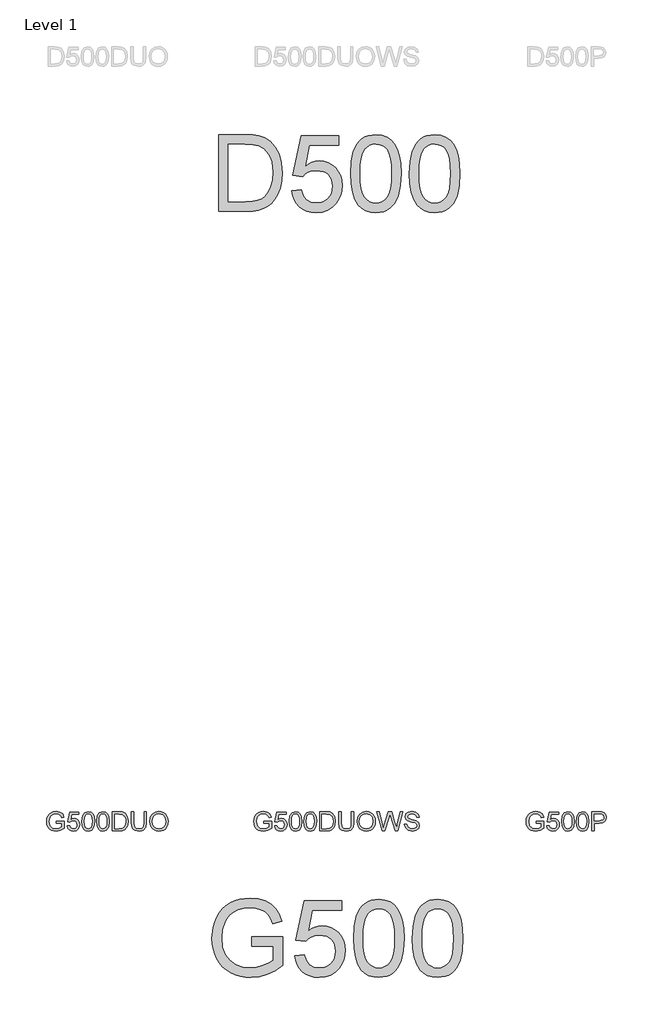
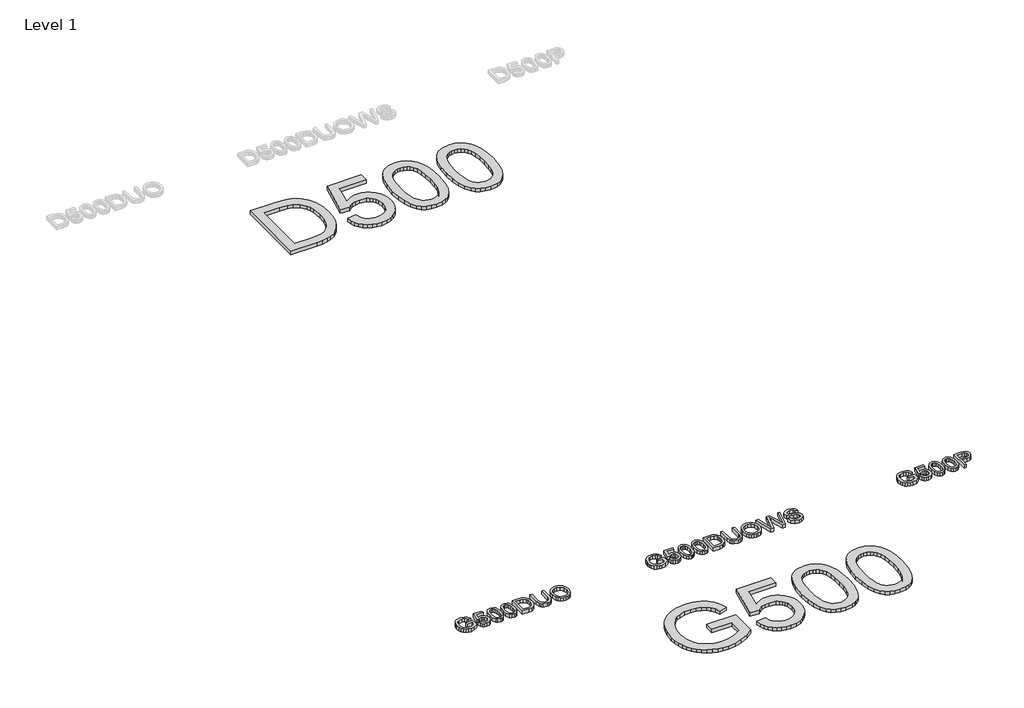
# One storey, part 1 of 5: 5 proxies.
"""IFC4 building model written with IfcOpenShell, lengths in millimetres."""

from ifc_helpers import new_model, si_unit, origin, origin_with_axes, place, context, project, spatial, polyline, outline, extrude, element, save

model = new_model("IFC4")

# Units and contexts
model_context = context("Model", 3, world=origin())
ifc_project = project(units=[si_unit("LENGTHUNIT", "METRE", prefix="MILLI")], contexts=[model_context])

# Site, building, storey
site = spatial("IfcSite", under=ifc_project)
building = spatial("IfcBuilding", under=site)
storey = spatial("IfcBuildingStorey", under=building, Name="Level 1", Elevation=0.0)

# Proxies
placement = place(None, origin())
element("IfcBuildingElementProxy", 1, Name="100mm Arial", ObjectType="100mm Arial", at=placement, inside=storey, context=model_context, shape_type="SweptSolid", body=[
    extrude(outline(polyline([(-4691.6867004, -11879.010611), (-4691.6867004, -11866.4535723), (-4650.8763244, -11866.4535723), (-4650.8763244, -11904.0020612), (-4671.023995, -11915.8478615), (-4692.3243625, -11919.820987), (-4706.4111772, -11918.2421601), (-4719.14296, -11913.5056795), (-4729.7195673, -11905.7770919), (-4737.340856, -11895.2219443), (-4741.948578, -11882.5606723), (-4743.4844853, -11868.5137114), (-4741.9547093, -11854.365583), (-4737.3653815, -11841.2046047), (-4729.906574, -11830.1650791), (-4719.7683594, -11822.3813092), (-4707.4197871, -11817.7643902), (-4693.3299066, -11816.2254172), (-4673.6850081, -11819.7938725), (-4659.9139587, -11829.7266864), (-4652.3233269, -11846.3426899), (-4663.899347, -11849.6045769), (-4669.6260434, -11837.9917686), (-4679.4117045, -11831.2963163), (-4693.5261104, -11828.782456), (-4709.6025536, -11831.49252), (-4720.5409115, -11838.6049052), (-4727.0033719, -11848.2802017), (-4730.9274465, -11867.9986767), (-4726.2062943, -11889.8876554), (-4712.4720331, -11902.9842544), (-4693.3299066, -11907.2639483), (-4676.1498175, -11904.0388494), (-4663.4333632, -11897.1594561), (-4663.4333632, -11879.010611), (-4691.6867004, -11879.010611)])), origin_with_axes(), (0.0, 0.0, 1.0), 20.0),
    extrude(outline(polyline([(-4635.1800259, -11891.5676498), (-4622.6229872, -11889.99802), (-4616.2954168, -11902.9352035), (-4603.1742924, -11907.2639483), (-4594.1734462, -11905.7586978), (-4587.428943, -11901.2429463), (-4583.2166941, -11894.23786), (-4581.8126112, -11885.264605), (-4587.0733237, -11870.3531214), (-4593.6798712, -11866.2512372), (-4602.9780886, -11864.8839424), (-4614.0022857, -11867.0667089), (-4621.0533573, -11872.7320917), (-4633.6103961, -11871.1624618), (-4622.6229872, -11819.3646769), (-4573.9644619, -11819.3646769), (-4573.9644619, -11831.9217157), (-4612.4694441, -11831.9217157), (-4617.8405212, -11859.5864417), (-4608.8703319, -11854.1417882), (-4599.4709469, -11852.3269037), (-4587.738577, -11854.5771152), (-4577.9989011, -11861.3277498), (-4571.4414046, -11871.6161829), (-4569.2555724, -11884.47979), (-4571.2237411, -11897.0368288), (-4577.1282471, -11907.7789831), (-4588.4344871, -11916.810486), (-4603.2233433, -11919.820987), (-4615.5565872, -11917.8865409), (-4625.3821021, -11912.0832024), (-4632.1174083, -11903.0854219), (-4635.1800259, -11891.5676498)])), origin_with_axes(), (0.0, 0.0, 1.0), 20.0),
    extrude(outline(polyline([(-4558.2681635, -11868.8325425), (-4554.5770808, -11839.9292804), (-4543.6141973, -11823.264226), (-4525.3059367, -11817.795047), (-4510.6397078, -11821.0324086), (-4500.5106902, -11830.3643485), (-4494.6245783, -11845.2267811), (-4492.3437099, -11868.8325425), (-4495.9980044, -11897.6131773), (-4506.9240997, -11914.3150198), (-4515.1554593, -11918.4444952), (-4525.3059367, -11919.820987), (-4538.3534848, -11917.4297541), (-4548.2617732, -11910.2560552), (-4555.7665659, -11893.2660384), (-4558.2681635, -11868.8325425)]), holes=[polyline([(-4545.7111247, -11868.808017), (-4544.2395967, -11888.5602145), (-4539.8250128, -11899.9921475), (-4533.2521878, -11905.4459981), (-4525.3059367, -11907.2639483), (-4517.3596856, -11905.4398667), (-4510.7868606, -11899.967622), (-4506.3722767, -11888.5295577), (-4504.9007487, -11868.808017), (-4506.3232258, -11849.5003437), (-4510.5906569, -11837.9795058), (-4517.1512191, -11832.2589408), (-4525.4530895, -11830.3520858), (-4533.3135015, -11832.0320803), (-4539.6288091, -11837.0720636), (-4544.1905458, -11849.3102713), (-4545.7111247, -11868.808017)])]), origin_with_axes(), (0.0, 0.0, 1.0), 20.0),
    extrude(outline(polyline([(-4481.356301, -11868.8325425), (-4477.6652183, -11839.9292804), (-4466.7023349, -11823.264226), (-4448.3940742, -11817.795047), (-4433.7278454, -11821.0324086), (-4423.5988278, -11830.3643485), (-4417.7127158, -11845.2267811), (-4415.4318475, -11868.8325425), (-4419.086142, -11897.6131773), (-4430.0122372, -11914.3150198), (-4438.2435969, -11918.4444952), (-4448.3940742, -11919.820987), (-4461.4416223, -11917.4297541), (-4471.3499107, -11910.2560552), (-4478.8547034, -11893.2660384), (-4481.356301, -11868.8325425)]), holes=[polyline([(-4468.7992622, -11868.808017), (-4467.3277343, -11888.5602145), (-4462.9131503, -11899.9921475), (-4456.3403253, -11905.4459981), (-4448.3940742, -11907.2639483), (-4440.4478232, -11905.4398667), (-4433.8749982, -11899.967622), (-4429.4604142, -11888.5295577), (-4427.9888862, -11868.808017), (-4429.4113633, -11849.5003437), (-4433.6787944, -11837.9795058), (-4440.2393567, -11832.2589408), (-4448.541227, -11830.3520858), (-4456.401639, -11832.0320803), (-4462.7169466, -11837.0720636), (-4467.2786833, -11849.3102713), (-4468.7992622, -11868.808017)])]), origin_with_axes(), (0.0, 0.0, 1.0), 20.0),
    extrude(outline(polyline([(-4399.735549, -11918.2513572), (-4399.735549, -11817.795047), (-4365.0810651, -11817.795047), (-4347.1529492, -11819.2420496), (-4332.3886184, -11826.4280112), (-4320.4937673, -11843.5958376), (-4316.5451672, -11867.4836419), (-4319.218443, -11887.7539398), (-4326.0855736, -11902.3833805), (-4335.258098, -11911.4945912), (-4347.2633138, -11916.5345745), (-4363.4133334, -11918.2513572), (-4399.735549, -11918.2513572)]), holes=[polyline([(-4387.1785102, -11905.6943184), (-4364.9584377, -11905.6943184), (-4348.7961554, -11903.8794339), (-4339.4764782, -11898.7536114), (-4331.8367954, -11886.2824118), (-4329.1022059, -11867.2874381), (-4330.4419095, -11853.6022279), (-4334.4610203, -11843.4977358), (-4347.4963057, -11832.3631741), (-4365.3017943, -11830.3520858), (-4387.1785102, -11830.3520858), (-4387.1785102, -11905.6943184)])]), origin_with_axes(), (0.0, 0.0, 1.0), 20.0),
    extrude(outline(polyline([(-4233.3547853, -11817.795047), (-4220.7977466, -11817.795047), (-4220.7977466, -11875.748724), (-4224.2067864, -11899.7714183), (-4236.494045, -11914.2414434), (-4246.7579527, -11918.4261011), (-4259.7932381, -11919.820987), (-4282.7368118, -11914.9649447), (-4290.3764946, -11909.0205848), (-4295.4655289, -11900.8995898), (-4299.2792389, -11875.748724), (-4299.2792389, -11817.795047), (-4286.7222001, -11817.795047), (-4286.7222001, -11875.3072656), (-4284.245128, -11894.4493921), (-4275.7347912, -11903.9284848), (-4260.9704604, -11907.2639483), (-4248.1988238, -11905.6146107), (-4239.7068811, -11900.6665978), (-4234.9428093, -11891.0280895), (-4233.3547853, -11875.3072656), (-4233.3547853, -11817.795047)])), origin_with_axes(), (0.0, 0.0, 1.0), 20.0),
    extrude(outline(polyline([(-4203.5318183, -11869.3475773), (-4200.1840921, -11847.1336362), (-4190.1409136, -11830.3275603), (-4174.8063658, -11819.750953), (-4155.5845316, -11816.2254172), (-4142.4082248, -11817.8808862), (-4130.5930813, -11822.8472931), (-4120.7828948, -11830.7751501), (-4113.6214586, -11841.3149693), (-4109.2436629, -11853.9578472), (-4107.7843976, -11868.1948804), (-4109.320305, -11882.621986), (-4113.928027, -11895.4426735), (-4121.3531119, -11906.0008868), (-4131.3411081, -11913.6405695), (-4143.0550839, -11918.2758827), (-4155.658108, -11919.820987), (-4169.0367498, -11918.1134014), (-4180.9193383, -11912.9906447), (-4190.7049994, -11904.9156349), (-4197.7928591, -11894.3512902), (-4203.5318183, -11869.3475773)]), holes=[polyline([(-4190.9747795, -11869.4702046), (-4188.4639849, -11885.1848972), (-4180.931601, -11897.1594561), (-4169.6100326, -11904.7378252), (-4155.7316844, -11907.2639483), (-4141.651001, -11904.7132998), (-4130.3110385, -11897.0613543), (-4122.8338369, -11884.7189133), (-4120.3414364, -11868.0967785), (-4124.6088676, -11847.3727595), (-4137.0800672, -11833.650761), (-4155.5109552, -11828.782456), (-4169.0183557, -11831.1277037), (-4180.5024054, -11838.1634468), (-4188.356686, -11850.6806317), (-4190.9747795, -11869.4702046)])]), origin_with_axes(), (0.0, 0.0, 1.0), 20.0),
    extrude(outline(polyline([(-4072.5413025, -11918.2513572), (-4099.9362484, -11817.795047), (-4086.9868022, -11817.795047), (-4071.0943, -11883.8176024), (-4066.1892067, -11904.198265), (-4060.9407569, -11886.1720472), (-4041.0260783, -11817.795047), (-4022.3621984, -11817.795047), (-4007.8921732, -11867.3610145), (-3997.1254935, -11904.198265), (-3992.367553, -11884.4062136), (-3976.327898, -11817.795047), (-3963.3784518, -11817.795047), (-3990.7979232, -11918.2513572), (-4004.2133533, -11918.2513572), (-4028.2973612, -11840.7508835), (-4031.6573501, -11829.9351529), (-4035.4342719, -11842.9581755), (-4057.3845643, -11918.2513572), (-4072.5413025, -11918.2513572)])), origin_with_axes(), (0.0, 0.0, 1.0), 20.0),
    extrude(outline(polyline([(-3955.5303026, -11883.7195006), (-3942.9732638, -11883.7195006), (-3938.9265619, -11896.2888021), (-3929.0427989, -11904.2350532), (-3913.9841626, -11907.2639483), (-3900.8630381, -11904.9708172), (-3892.3894895, -11898.6677723), (-3889.605849, -11890.2432746), (-3891.6905137, -11882.4073881), (-3900.225376, -11876.7052172), (-3918.5091111, -11871.9104885), (-3938.1907979, -11865.7178083), (-3948.8716385, -11856.3736056), (-3952.3910429, -11843.8901432), (-3948.0377726, -11829.6776355), (-3935.3213183, -11819.6467198), (-3916.7064894, -11816.2254172), (-3896.8408616, -11819.8061353), (-3883.5971098, -11830.3275603), (-3878.6184401, -11846.0483843), (-3891.1754789, -11846.0483843), (-3893.4808727, -11838.5558543), (-3898.2878641, -11833.147989), (-3916.21598, -11828.782456), (-3934.1931469, -11833.098938), (-3939.8340041, -11843.5222612), (-3935.8363531, -11852.2288018), (-3915.3330632, -11859.2430852), (-3893.1129907, -11865.54613), (-3880.9606222, -11875.7241985), (-3877.0488103, -11889.9244436), (-3881.5492333, -11904.9462917), (-3894.4986796, -11915.9091752), (-3913.4936533, -11919.820987), (-3935.9221922, -11915.6026068), (-3950.1101745, -11902.8984153), (-3955.5303026, -11883.7195006)])), origin_with_axes(), (0.0, 0.0, 1.0), 20.0),
])
element("IfcBuildingElementProxy", 2, Name="100mm Arial", ObjectType="100mm Arial", at=placement, inside=storey, context=model_context, shape_type="SweptSolid", body=[
    extrude(outline(polyline([(-5775.5340918, -11879.010611), (-5775.5340918, -11866.4535723), (-5734.7237158, -11866.4535723), (-5734.7237158, -11904.0020612), (-5754.8713864, -11915.8478615), (-5776.1717539, -11919.820987), (-5790.2585686, -11918.2421601), (-5802.9903514, -11913.5056795), (-5813.5669587, -11905.7770919), (-5821.1882474, -11895.2219443), (-5825.7959694, -11882.5606723), (-5827.3318767, -11868.5137114), (-5825.8021007, -11854.365583), (-5821.2127728, -11841.2046047), (-5813.7539654, -11830.1650791), (-5803.6157507, -11822.3813092), (-5791.2671784, -11817.7643902), (-5777.177298, -11816.2254172), (-5757.5323995, -11819.7938725), (-5743.7613501, -11829.7266864), (-5736.1707183, -11846.3426899), (-5747.7467384, -11849.6045769), (-5753.4734348, -11837.9917686), (-5763.2590959, -11831.2963163), (-5777.3735018, -11828.782456), (-5793.4499449, -11831.49252), (-5804.3883029, -11838.6049052), (-5810.8507633, -11848.2802017), (-5814.7748379, -11867.9986767), (-5810.0536857, -11889.8876554), (-5796.3194245, -11902.9842544), (-5777.177298, -11907.2639483), (-5759.9972089, -11904.0388494), (-5747.2807546, -11897.1594561), (-5747.2807546, -11879.010611), (-5775.5340918, -11879.010611)])), origin_with_axes(), (0.0, 0.0, 1.0), 20.0),
    extrude(outline(polyline([(-5719.0274173, -11891.5676498), (-5706.4703786, -11889.99802), (-5700.1428082, -11902.9352035), (-5687.0216837, -11907.2639483), (-5678.0208376, -11905.7586978), (-5671.2763343, -11901.2429463), (-5667.0640855, -11894.23786), (-5665.6600026, -11885.264605), (-5670.9207151, -11870.3531214), (-5677.5272626, -11866.2512372), (-5686.82548, -11864.8839424), (-5697.8496771, -11867.0667089), (-5704.9007487, -11872.7320917), (-5717.4577875, -11871.1624618), (-5706.4703786, -11819.3646769), (-5657.8118533, -11819.3646769), (-5657.8118533, -11831.9217157), (-5696.3168355, -11831.9217157), (-5701.6879126, -11859.5864417), (-5692.7177233, -11854.1417882), (-5683.3183383, -11852.3269037), (-5671.5859684, -11854.5771152), (-5661.8462925, -11861.3277498), (-5655.288796, -11871.6161829), (-5653.1029638, -11884.47979), (-5655.0711325, -11897.0368288), (-5660.9756385, -11907.7789831), (-5672.2818785, -11916.810486), (-5687.0707347, -11919.820987), (-5699.4039786, -11917.8865409), (-5709.2294935, -11912.0832024), (-5715.9647997, -11903.0854219), (-5719.0274173, -11891.5676498)])), origin_with_axes(), (0.0, 0.0, 1.0), 20.0),
    extrude(outline(polyline([(-5642.1155549, -11868.8325425), (-5638.4244722, -11839.9292804), (-5627.4615887, -11823.264226), (-5609.1533281, -11817.795047), (-5594.4870992, -11821.0324086), (-5584.3580816, -11830.3643485), (-5578.4719697, -11845.2267811), (-5576.1911013, -11868.8325425), (-5579.8453958, -11897.6131773), (-5590.7714911, -11914.3150198), (-5599.0028507, -11918.4444952), (-5609.1533281, -11919.820987), (-5622.2008762, -11917.4297541), (-5632.1091646, -11910.2560552), (-5639.6139573, -11893.2660384), (-5642.1155549, -11868.8325425)]), holes=[polyline([(-5629.5585161, -11868.808017), (-5628.0869881, -11888.5602145), (-5623.6724042, -11899.9921475), (-5617.0995792, -11905.4459981), (-5609.1533281, -11907.2639483), (-5601.207077, -11905.4398667), (-5594.634252, -11899.967622), (-5590.2196681, -11888.5295577), (-5588.7481401, -11868.808017), (-5590.1706171, -11849.5003437), (-5594.4380483, -11837.9795058), (-5600.9986105, -11832.2589408), (-5609.3004809, -11830.3520858), (-5617.1608929, -11832.0320803), (-5623.4762004, -11837.0720636), (-5628.0379372, -11849.3102713), (-5629.5585161, -11868.808017)])]), origin_with_axes(), (0.0, 0.0, 1.0), 20.0),
    extrude(outline(polyline([(-5565.2036924, -11868.8325425), (-5561.5126097, -11839.9292804), (-5550.5497263, -11823.264226), (-5532.2414656, -11817.795047), (-5517.5752368, -11821.0324086), (-5507.4462192, -11830.3643485), (-5501.5601072, -11845.2267811), (-5499.2792389, -11868.8325425), (-5502.9335334, -11897.6131773), (-5513.8596286, -11914.3150198), (-5522.0909883, -11918.4444952), (-5532.2414656, -11919.820987), (-5545.2890137, -11917.4297541), (-5555.1973021, -11910.2560552), (-5562.7020948, -11893.2660384), (-5565.2036924, -11868.8325425)]), holes=[polyline([(-5552.6466536, -11868.808017), (-5551.1751257, -11888.5602145), (-5546.7605417, -11899.9921475), (-5540.1877167, -11905.4459981), (-5532.2414656, -11907.2639483), (-5524.2952145, -11905.4398667), (-5517.7223896, -11899.967622), (-5513.3078056, -11888.5295577), (-5511.8362776, -11868.808017), (-5513.2587547, -11849.5003437), (-5517.5261858, -11837.9795058), (-5524.0867481, -11832.2589408), (-5532.3886184, -11830.3520858), (-5540.2490304, -11832.0320803), (-5546.564338, -11837.0720636), (-5551.1260747, -11849.3102713), (-5552.6466536, -11868.808017)])]), origin_with_axes(), (0.0, 0.0, 1.0), 20.0),
    extrude(outline(polyline([(-5483.5829404, -11918.2513572), (-5483.5829404, -11817.795047), (-5448.9284565, -11817.795047), (-5431.0003406, -11819.2420496), (-5416.2360098, -11826.4280112), (-5404.3411586, -11843.5958376), (-5400.3925586, -11867.4836419), (-5403.0658344, -11887.7539398), (-5409.932965, -11902.3833805), (-5419.1054894, -11911.4945912), (-5431.1107052, -11916.5345745), (-5447.2607248, -11918.2513572), (-5483.5829404, -11918.2513572)]), holes=[polyline([(-5471.0259016, -11905.6943184), (-5448.8058291, -11905.6943184), (-5432.6435468, -11903.8794339), (-5423.3238696, -11898.7536114), (-5415.6841868, -11886.2824118), (-5412.9495973, -11867.2874381), (-5414.2893009, -11853.6022279), (-5418.3084117, -11843.4977358), (-5431.3436971, -11832.3631741), (-5449.1491857, -11830.3520858), (-5471.0259016, -11830.3520858), (-5471.0259016, -11905.6943184)])]), origin_with_axes(), (0.0, 0.0, 1.0), 20.0),
    extrude(outline(polyline([(-5317.2021767, -11817.795047), (-5304.645138, -11817.795047), (-5304.645138, -11875.748724), (-5308.0541778, -11899.7714183), (-5320.3414364, -11914.2414434), (-5330.6053441, -11918.4261011), (-5343.6406294, -11919.820987), (-5366.5842032, -11914.9649447), (-5374.223886, -11909.0205848), (-5379.3129202, -11900.8995898), (-5383.1266303, -11875.748724), (-5383.1266303, -11817.795047), (-5370.5695915, -11817.795047), (-5370.5695915, -11875.3072656), (-5368.0925194, -11894.4493921), (-5359.5821826, -11903.9284848), (-5344.8178518, -11907.2639483), (-5332.0462152, -11905.6146107), (-5323.5542725, -11900.6665978), (-5318.7902007, -11891.0280895), (-5317.2021767, -11875.3072656), (-5317.2021767, -11817.795047)])), origin_with_axes(), (0.0, 0.0, 1.0), 20.0),
    extrude(outline(polyline([(-5287.3792096, -11869.3475773), (-5284.0314835, -11847.1336362), (-5273.988305, -11830.3275603), (-5258.6537572, -11819.750953), (-5239.4319229, -11816.2254172), (-5226.2556161, -11817.8808862), (-5214.4404727, -11822.8472931), (-5204.6302862, -11830.7751501), (-5197.46885, -11841.3149693), (-5193.0910543, -11853.9578472), (-5191.631789, -11868.1948804), (-5193.1676964, -11882.621986), (-5197.7754184, -11895.4426735), (-5205.2005033, -11906.0008868), (-5215.1884995, -11913.6405695), (-5226.9024753, -11918.2758827), (-5239.5054993, -11919.820987), (-5252.8841412, -11918.1134014), (-5264.7667297, -11912.9906447), (-5274.5523907, -11904.9156349), (-5281.6402505, -11894.3512902), (-5287.3792096, -11869.3475773)]), holes=[polyline([(-5274.8221709, -11869.4702046), (-5272.3113763, -11885.1848972), (-5264.7789924, -11897.1594561), (-5253.457424, -11904.7378252), (-5239.5790757, -11907.2639483), (-5225.4983924, -11904.7132998), (-5214.1584299, -11897.0613543), (-5206.6812283, -11884.7189133), (-5204.1888278, -11868.0967785), (-5208.4562589, -11847.3727595), (-5220.9274586, -11833.650761), (-5239.3583465, -11828.782456), (-5252.8657471, -11831.1277037), (-5264.3497967, -11838.1634468), (-5272.2040773, -11850.6806317), (-5274.8221709, -11869.4702046)])]), origin_with_axes(), (0.0, 0.0, 1.0), 20.0),
])
element("IfcBuildingElementProxy", 3, Name="100mm Arial", ObjectType="100mm Arial", at=placement, inside=storey, context=model_context, shape_type="SweptSolid", body=[
    extrude(outline(polyline([(-3267.2296324, -11879.010611), (-3267.2296324, -11866.4535723), (-3226.4192564, -11866.4535723), (-3226.4192564, -11904.0020612), (-3246.566927, -11915.8478615), (-3267.8672945, -11919.820987), (-3281.9541093, -11918.2421601), (-3294.685892, -11913.5056795), (-3305.2624993, -11905.7770919), (-3312.883788, -11895.2219443), (-3317.49151, -11882.5606723), (-3319.0274173, -11868.5137114), (-3317.4976414, -11854.365583), (-3312.9083135, -11841.2046047), (-3305.449506, -11830.1650791), (-3295.3112914, -11822.3813092), (-3282.9627191, -11817.7643902), (-3268.8728386, -11816.2254172), (-3249.2279401, -11819.7938725), (-3235.4568907, -11829.7266864), (-3227.8662589, -11846.3426899), (-3239.442279, -11849.6045769), (-3245.1689754, -11837.9917686), (-3254.9546365, -11831.2963163), (-3269.0690424, -11828.782456), (-3285.1454856, -11831.49252), (-3296.0838436, -11838.6049052), (-3302.5463039, -11848.2802017), (-3306.4703786, -11867.9986767), (-3301.7492263, -11889.8876554), (-3288.0149651, -11902.9842544), (-3268.8728386, -11907.2639483), (-3251.6927495, -11904.0388494), (-3238.9762952, -11897.1594561), (-3238.9762952, -11879.010611), (-3267.2296324, -11879.010611)])), origin_with_axes(), (0.0, 0.0, 1.0), 20.0),
    extrude(outline(polyline([(-3210.7229579, -11891.5676498), (-3198.1659192, -11889.99802), (-3191.8383489, -11902.9352035), (-3178.7172244, -11907.2639483), (-3169.7163782, -11905.7586978), (-3162.971875, -11901.2429463), (-3158.7596261, -11894.23786), (-3157.3555432, -11885.264605), (-3162.6162557, -11870.3531214), (-3169.2228032, -11866.2512372), (-3178.5210206, -11864.8839424), (-3189.5452178, -11867.0667089), (-3196.5962893, -11872.7320917), (-3209.1533281, -11871.1624618), (-3198.1659192, -11819.3646769), (-3149.5073939, -11819.3646769), (-3149.5073939, -11831.9217157), (-3188.0123761, -11831.9217157), (-3193.3834532, -11859.5864417), (-3184.4132639, -11854.1417882), (-3175.0138789, -11852.3269037), (-3163.281509, -11854.5771152), (-3153.5418332, -11861.3277498), (-3146.9843366, -11871.6161829), (-3144.7985044, -11884.47979), (-3146.7666731, -11897.0368288), (-3152.6711791, -11907.7789831), (-3163.9774191, -11916.810486), (-3178.7662753, -11919.820987), (-3191.0995192, -11917.8865409), (-3200.9250341, -11912.0832024), (-3207.6603403, -11903.0854219), (-3210.7229579, -11891.5676498)])), origin_with_axes(), (0.0, 0.0, 1.0), 20.0),
    extrude(outline(polyline([(-3133.8110955, -11868.8325425), (-3130.1200128, -11839.9292804), (-3119.1571293, -11823.264226), (-3100.8488687, -11817.795047), (-3086.1826398, -11821.0324086), (-3076.0536222, -11830.3643485), (-3070.1675103, -11845.2267811), (-3067.8866419, -11868.8325425), (-3071.5409364, -11897.6131773), (-3082.4670317, -11914.3150198), (-3090.6983913, -11918.4444952), (-3100.8488687, -11919.820987), (-3113.8964168, -11917.4297541), (-3123.8047052, -11910.2560552), (-3131.3094979, -11893.2660384), (-3133.8110955, -11868.8325425)]), holes=[polyline([(-3121.2540567, -11868.808017), (-3119.7825287, -11888.5602145), (-3115.3679448, -11899.9921475), (-3108.7951198, -11905.4459981), (-3100.8488687, -11907.2639483), (-3092.9026176, -11905.4398667), (-3086.3297926, -11899.967622), (-3081.9152087, -11888.5295577), (-3080.4436807, -11868.808017), (-3081.8661578, -11849.5003437), (-3086.1335889, -11837.9795058), (-3092.6941512, -11832.2589408), (-3100.9960215, -11830.3520858), (-3108.8564335, -11832.0320803), (-3115.1717411, -11837.0720636), (-3119.7334778, -11849.3102713), (-3121.2540567, -11868.808017)])]), origin_with_axes(), (0.0, 0.0, 1.0), 20.0),
    extrude(outline(polyline([(-3056.899233, -11868.8325425), (-3053.2081503, -11839.9292804), (-3042.2452669, -11823.264226), (-3023.9370063, -11817.795047), (-3009.2707774, -11821.0324086), (-2999.1417598, -11830.3643485), (-2993.2556479, -11845.2267811), (-2990.9747795, -11868.8325425), (-2994.629074, -11897.6131773), (-3005.5551692, -11914.3150198), (-3013.7865289, -11918.4444952), (-3023.9370063, -11919.820987), (-3036.9845544, -11917.4297541), (-3046.8928428, -11910.2560552), (-3054.3976355, -11893.2660384), (-3056.899233, -11868.8325425)]), holes=[polyline([(-3044.3421943, -11868.808017), (-3042.8706663, -11888.5602145), (-3038.4560823, -11899.9921475), (-3031.8832574, -11905.4459981), (-3023.9370063, -11907.2639483), (-3015.9907552, -11905.4398667), (-3009.4179302, -11899.967622), (-3005.0033462, -11888.5295577), (-3003.5318183, -11868.808017), (-3004.9542953, -11849.5003437), (-3009.2217264, -11837.9795058), (-3015.7822887, -11832.2589408), (-3024.0841591, -11830.3520858), (-3031.944571, -11832.0320803), (-3038.2598786, -11837.0720636), (-3042.8216153, -11849.3102713), (-3044.3421943, -11868.808017)])]), origin_with_axes(), (0.0, 0.0, 1.0), 20.0),
    extrude(outline(polyline([(-2975.278481, -11918.2513572), (-2975.278481, -11817.795047), (-2938.0488231, -11817.795047), (-2923.0392377, -11818.7515402), (-2910.8378182, -11823.448167), (-2902.9283553, -11833.1602517), (-2899.9362484, -11846.8577247), (-2901.9565337, -11858.6973935), (-2908.0173896, -11868.5627624), (-2919.3512207, -11875.2214265), (-2937.1904318, -11877.4409812), (-2962.7214423, -11877.4409812), (-2962.7214423, -11918.2513572), (-2975.278481, -11918.2513572)]), holes=[polyline([(-2962.7214423, -11864.8839424), (-2936.4546678, -11864.8839424), (-2917.9624662, -11860.2731548), (-2913.8605819, -11854.724268), (-2912.4932872, -11847.2991831), (-2915.718386, -11836.9003853), (-2924.1919346, -11831.2104771), (-2936.7489734, -11830.3520858), (-2962.7214423, -11830.3520858), (-2962.7214423, -11864.8839424)])]), origin_with_axes(), (0.0, 0.0, 1.0), 20.0),
])
element("IfcBuildingElementProxy", 4, Name="400mm Arial", ObjectType="400mm Arial", at=placement, inside=storey, context=model_context, shape_type="SweptSolid", body=[
    extrude(outline(polyline([(-4755.2567092, -12521.2883726), (-4755.2567092, -12471.0602175), (-4592.0152052, -12471.0602175), (-4592.0152052, -12621.2541734), (-4631.685147, -12648.845323), (-4672.6058876, -12668.6373744), (-4714.6793251, -12680.556751), (-4757.8073577, -12684.5298766), (-4786.6585031, -12682.9510497), (-4814.1546166, -12678.214569), (-4840.295698, -12670.3204345), (-4865.0817475, -12659.2686462), (-4887.7126215, -12645.2247511), (-4907.3881769, -12628.3542959), (-4924.1084136, -12608.6572808), (-4937.8733316, -12586.1337056), (-4948.6246829, -12561.504006), (-4956.3042195, -12535.4886176), (-4960.9119415, -12508.0875403), (-4962.4478488, -12479.3007742), (-4956.328745, -12422.7082606), (-4948.6798652, -12395.8927288), (-4937.9714334, -12370.0643471), (-4924.3935221, -12346.3574182), (-4908.1362036, -12325.9062449), (-4889.1994779, -12308.7108274), (-4867.583345, -12294.7711654), (-4843.7568545, -12283.9983543), (-4818.1890558, -12276.3034893), (-4790.879949, -12271.6865702), (-4761.8295341, -12270.1475972), (-4720.4550724, -12273.7160526), (-4683.24994, -12284.4214186), (-4651.9186567, -12301.4911432), (-4628.1657426, -12324.1526741), (-4610.5932459, -12353.4973946), (-4597.8032152, -12390.6166879), (-4644.1072957, -12403.664236), (-4654.4447797, -12377.1889951), (-4667.0140812, -12357.2130027), (-4683.6423474, -12342.1543664), (-4706.1567255, -12330.4311935), (-4732.9998484, -12322.8896126), (-4762.6143491, -12320.3757523), (-4797.2810957, -12323.0858163), (-4826.9201218, -12331.2160084), (-4851.4210627, -12343.7485217), (-4870.6735538, -12359.6655494), (-4885.4501472, -12378.1454883), (-4896.5233953, -12398.3667353), (-4908.2956192, -12436.2831062), (-4912.2196938, -12477.240635), (-4907.4985415, -12525.2737609), (-4893.3350847, -12564.7965499), (-4870.158519, -12595.5269592), (-4838.3980401, -12617.182946), (-4801.2296958, -12630.0220276), (-4761.8295341, -12634.3017215), (-4727.0401601, -12631.0766227), (-4693.1091774, -12621.4013262), (-4663.6418296, -12608.0717352), (-4642.2433602, -12593.883753), (-4642.2433602, -12521.2883726), (-4755.2567092, -12521.2883726)])), origin_with_axes(), (0.0, 0.0, 1.0), 20.0),
    extrude(outline(polyline([(-4529.2300113, -12571.5165277), (-4479.0018562, -12565.2380083), (-4469.7802809, -12595.3920691), (-4453.691575, -12616.9867423), (-4430.8093149, -12629.9729767), (-4401.207077, -12634.3017215), (-4382.0772132, -12632.796471), (-4365.2036924, -12628.2807195), (-4350.5865145, -12620.754467), (-4338.2256794, -12610.2177136), (-4328.3970988, -12597.1916252), (-4321.376684, -12582.1973683), (-4315.7603523, -12546.3043483), (-4321.0210648, -12512.5082556), (-4327.5969554, -12498.5900535), (-4336.8032024, -12486.6584141), (-4348.6704624, -12477.0873509), (-4363.2293924, -12470.2508771), (-4400.4222621, -12464.7816981), (-4424.7883129, -12466.9644646), (-4444.5190506, -12473.5127641), (-4460.2766627, -12483.5436799), (-4472.7233369, -12496.174295), (-4522.9514919, -12489.8957757), (-4479.0018562, -12282.704636), (-4284.3677553, -12282.704636), (-4284.3677553, -12332.9327911), (-4438.387684, -12332.9327911), (-4459.8719925, -12443.5916952), (-4442.1462117, -12430.8875036), (-4423.9912352, -12421.8130811), (-4405.4070631, -12416.3684276), (-4386.3936953, -12414.553543), (-4361.9326083, -12416.8037546), (-4339.4642155, -12423.5543892), (-4318.9885168, -12434.8054469), (-4300.5055122, -12450.5569276), (-4285.2046869, -12469.8462069), (-4274.2755259, -12491.7106602), (-4267.7180294, -12516.1502874), (-4265.5321972, -12543.1650886), (-4267.5003659, -12569.1866084), (-4273.4048719, -12593.3932436), (-4283.2457152, -12615.7849944), (-4297.022896, -12636.3618607), (-4317.8940678, -12657.4353676), (-4342.2478559, -12672.4878726), (-4370.0842602, -12681.5193756), (-4401.4032807, -12684.5298766), (-4427.323633, -12682.5954304), (-4450.7362563, -12676.7920919), (-4471.6411507, -12667.1198612), (-4490.0383161, -12653.578738), (-4505.3452728, -12636.843173), (-4516.9795409, -12617.5876162), (-4524.9411204, -12595.8120678), (-4529.2300113, -12571.5165277)])), origin_with_axes(), (0.0, 0.0, 1.0), 20.0),
    extrude(outline(polyline([(-4221.5825615, -12480.5760984), (-4217.8914788, -12416.258063), (-4206.8182307, -12364.9630501), (-4188.4731819, -12325.9062449), (-4176.6151189, -12310.6728647), (-4162.9666969, -12298.3028326), (-4147.4819306, -12288.7317693), (-4130.1148348, -12281.8952956), (-4089.7336544, -12276.4261166), (-4058.7825159, -12279.6634782), (-4031.0687389, -12289.3755628), (-4007.8921732, -12305.1822259), (-3990.5526685, -12326.7033226), (-3977.4560695, -12353.754912), (-3967.0082208, -12386.153053), (-3960.1656157, -12427.2945228), (-3957.8847473, -12480.5760984), (-3961.5390418, -12544.5262519), (-3972.5019253, -12595.6986375), (-3990.7366095, -12634.7922308), (-4002.5670813, -12650.0715964), (-4016.2063063, -12662.5060078), (-4031.7094667, -12672.1414504), (-4049.1317449, -12679.0239094), (-4089.7336544, -12684.5298766), (-4117.3983805, -12682.1386436), (-4141.9238468, -12674.9649447), (-4163.3100535, -12663.0087799), (-4181.5570004, -12646.2701491), (-4199.0681834, -12616.011855), (-4211.5761712, -12578.3100818), (-4219.0809639, -12533.1648297), (-4221.5825615, -12480.5760984)]), holes=[polyline([(-4171.3544064, -12480.4779966), (-4169.8828784, -12524.1425237), (-4165.4682945, -12559.4867864), (-4158.1106546, -12586.5107846), (-4147.8099587, -12605.2145184), (-4135.3510218, -12617.9401698), (-4121.5186588, -12627.0299207), (-4106.3128697, -12632.4837713), (-4089.7336544, -12634.3017215), (-4073.1544392, -12632.4776399), (-4057.94865, -12627.0053953), (-4044.116287, -12617.8849875), (-4031.6573501, -12605.1164166), (-4021.3566542, -12586.3820259), (-4013.9990143, -12559.3641591), (-4009.5844304, -12524.062816), (-4008.1129024, -12480.4779966), (-4009.5353795, -12437.969232), (-4013.8028106, -12403.2473031), (-4020.9151959, -12376.3122097), (-4030.8725352, -12357.1639518), (-4043.1230056, -12343.8159667), (-4057.1147842, -12334.2816917), (-4072.8478708, -12328.5611267), (-4090.3222656, -12326.6542717), (-4106.8156417, -12328.3342661), (-4121.7639135, -12333.3742494), (-4135.1670808, -12341.7742217), (-4147.0251438, -12353.5341828), (-4157.6691962, -12374.3808292), (-4165.2720908, -12402.4870136), (-4169.8338275, -12437.8527361), (-4171.3544064, -12480.4779966)])]), origin_with_axes(), (0.0, 0.0, 1.0), 20.0),
    extrude(outline(polyline([(-3913.9351117, -12480.5760984), (-3910.244029, -12416.258063), (-3899.1707809, -12364.9630501), (-3880.8257321, -12325.9062449), (-3868.9676691, -12310.6728647), (-3855.3192471, -12298.3028326), (-3839.8344808, -12288.7317693), (-3822.4673849, -12281.8952956), (-3782.0862046, -12276.4261166), (-3751.1350661, -12279.6634782), (-3723.4212891, -12289.3755628), (-3700.2447234, -12305.1822259), (-3682.9052187, -12326.7033226), (-3669.8086197, -12353.754912), (-3659.360771, -12386.153053), (-3652.5181659, -12427.2945228), (-3650.2372975, -12480.5760984), (-3653.891592, -12544.5262519), (-3664.8544755, -12595.6986375), (-3683.0891597, -12634.7922308), (-3694.9196315, -12650.0715964), (-3708.5588565, -12662.5060078), (-3724.0620169, -12672.1414504), (-3741.484295, -12679.0239094), (-3782.0862046, -12684.5298766), (-3809.7509306, -12682.1386436), (-3834.276397, -12674.9649447), (-3855.6626036, -12663.0087799), (-3873.9095506, -12646.2701491), (-3891.4207335, -12616.011855), (-3903.9287214, -12578.3100818), (-3911.4335141, -12533.1648297), (-3913.9351117, -12480.5760984)]), holes=[polyline([(-3863.7069566, -12480.4779966), (-3862.2354286, -12524.1425237), (-3857.8208447, -12559.4867864), (-3850.4632048, -12586.5107846), (-3840.1625089, -12605.2145184), (-3827.703572, -12617.9401698), (-3813.871209, -12627.0299207), (-3798.6654198, -12632.4837713), (-3782.0862046, -12634.3017215), (-3765.5069893, -12632.4776399), (-3750.3012002, -12627.0053953), (-3736.4688372, -12617.8849875), (-3724.0099003, -12605.1164166), (-3713.7092044, -12586.3820259), (-3706.3515645, -12559.3641591), (-3701.9369806, -12524.062816), (-3700.4654526, -12480.4779966), (-3701.8879296, -12437.969232), (-3706.1553608, -12403.2473031), (-3713.267746, -12376.3122097), (-3723.2250854, -12357.1639518), (-3735.4755558, -12343.8159667), (-3749.4673343, -12334.2816917), (-3765.200421, -12328.5611267), (-3782.6748158, -12326.6542717), (-3799.1681919, -12328.3342661), (-3814.1164636, -12333.3742494), (-3827.519631, -12341.7742217), (-3839.377694, -12353.5341828), (-3850.0217464, -12374.3808292), (-3857.6246409, -12402.4870136), (-3862.1863777, -12437.8527361), (-3863.7069566, -12480.4779966)])]), origin_with_axes(), (0.0, 0.0, 1.0), 20.0),
])
element("IfcBuildingElementProxy", 5, Name="400mm Arial", ObjectType="400mm Arial", at=placement, inside=storey, context=model_context, shape_type="SweptSolid", body=[
    extrude(outline(polyline([(-4927.9159922, -8678.2513572), (-4927.9159922, -8276.4261166), (-4789.2980564, -8276.4261166), (-4747.8745438, -8277.8731191), (-4717.5855929, -8282.2141267), (-4685.5553338, -8293.3732138), (-4658.5282699, -8310.9579732), (-4630.7409165, -8341.5657552), (-4610.9488652, -8379.629279), (-4599.1030649, -8424.4127805), (-4595.1544649, -8475.1804959), (-4597.8277407, -8518.3085284), (-4605.8475682, -8556.2616876), (-4618.0612504, -8588.5739895), (-4633.3160905, -8614.7794503), (-4650.8763244, -8635.4666812), (-4670.0061881, -8651.2242933), (-4691.9687433, -8662.910678), (-4718.0270512, -8671.3842266), (-4748.230163, -8676.5345745), (-4782.6271296, -8678.2513572), (-4927.9159922, -8678.2513572)]), holes=[polyline([(-4877.6878372, -8628.0232021), (-4788.8075471, -8628.0232021), (-4752.0438731, -8626.2083176), (-4724.1584178, -8620.7636641), (-4703.1155677, -8612.0080726), (-4686.879709, -8600.2603742), (-4669.4298397, -8578.5185483), (-4656.3209779, -8550.3755757), (-4648.1172094, -8515.708829), (-4645.3826199, -8474.3956809), (-4650.7414343, -8419.65484), (-4657.4399523, -8397.6554967), (-4666.8178775, -8379.2368715), (-4690.5707917, -8351.4740436), (-4718.959019, -8334.6986246), (-4747.8500183, -8328.6653599), (-4790.1809732, -8326.6542717), (-4877.6878372, -8326.6542717), (-4877.6878372, -8628.0232021)])]), origin_with_axes(), (0.0, 0.0, 1.0), 20.0),
    extrude(outline(polyline([(-4544.9263098, -8571.5165277), (-4494.6981547, -8565.2380083), (-4485.4765794, -8595.3920691), (-4469.3878734, -8616.9867423), (-4446.5056133, -8629.9729767), (-4416.9033755, -8634.3017215), (-4397.7735117, -8632.796471), (-4380.8999909, -8628.2807195), (-4366.2828129, -8620.754467), (-4353.9219779, -8610.2177136), (-4344.0933972, -8597.1916252), (-4337.0729825, -8582.1973683), (-4331.4566507, -8546.3043483), (-4336.7173632, -8512.5082556), (-4343.2932539, -8498.5900535), (-4352.4995008, -8486.6584141), (-4364.3667609, -8477.0873509), (-4378.9256908, -8470.2508771), (-4416.1185605, -8464.7816981), (-4440.4846114, -8466.9644646), (-4460.215349, -8473.5127641), (-4475.9729612, -8483.5436799), (-4488.4196353, -8496.174295), (-4538.6477904, -8489.8957757), (-4494.6981547, -8282.704636), (-4300.0640538, -8282.704636), (-4300.0640538, -8332.9327911), (-4454.0839824, -8332.9327911), (-4475.568291, -8443.5916952), (-4457.8425102, -8430.8875036), (-4439.6875337, -8421.8130811), (-4421.1033616, -8416.3684276), (-4402.0899938, -8414.553543), (-4377.6289068, -8416.8037546), (-4355.1605139, -8423.5543892), (-4334.6848152, -8434.8054469), (-4316.2018106, -8450.5569276), (-4300.9009853, -8469.8462069), (-4289.9718244, -8491.7106602), (-4283.4143278, -8516.1502874), (-4281.2284956, -8543.1650886), (-4283.1966643, -8569.1866084), (-4289.1011703, -8593.3932436), (-4298.9420137, -8615.7849944), (-4312.7191944, -8636.3618607), (-4333.5903663, -8657.4353676), (-4357.9441544, -8672.4878726), (-4385.7805587, -8681.5193756), (-4417.0995792, -8684.5298766), (-4443.0199314, -8682.5954304), (-4466.4325547, -8676.7920919), (-4487.3374491, -8667.1198612), (-4505.7346146, -8653.578738), (-4521.0415712, -8636.843173), (-4532.6758393, -8617.5876162), (-4540.6374189, -8595.8120678), (-4544.9263098, -8571.5165277)])), origin_with_axes(), (0.0, 0.0, 1.0), 20.0),
    extrude(outline(polyline([(-4237.2788599, -8480.5760984), (-4233.5877773, -8416.258063), (-4222.5145292, -8364.9630501), (-4204.1694804, -8325.9062449), (-4192.3114174, -8310.6728647), (-4178.6629954, -8298.3028326), (-4163.1782291, -8288.7317693), (-4145.8111332, -8281.8952956), (-4105.4299529, -8276.4261166), (-4074.4788143, -8279.6634782), (-4046.7650374, -8289.3755628), (-4023.5884717, -8305.1822259), (-4006.248967, -8326.7033226), (-3993.1523679, -8353.754912), (-3982.7045193, -8386.153053), (-3975.8619142, -8427.2945228), (-3973.5810458, -8480.5760984), (-3977.2353403, -8544.5262519), (-3988.1982237, -8595.6986375), (-4006.432908, -8634.7922308), (-4018.2633798, -8650.0715964), (-4031.9026048, -8662.5060078), (-4047.4057652, -8672.1414504), (-4064.8280433, -8679.0239094), (-4105.4299529, -8684.5298766), (-4133.0946789, -8682.1386436), (-4157.6201453, -8674.9649447), (-4179.0063519, -8663.0087799), (-4197.2532989, -8646.2701491), (-4214.7644818, -8616.011855), (-4227.2724697, -8578.3100818), (-4234.7772624, -8533.1648297), (-4237.2788599, -8480.5760984)]), holes=[polyline([(-4187.0507049, -8480.4779966), (-4185.5791769, -8524.1425237), (-4181.164593, -8559.4867864), (-4173.806953, -8586.5107846), (-4163.5062572, -8605.2145184), (-4151.0473203, -8617.9401698), (-4137.2149573, -8627.0299207), (-4122.0091681, -8632.4837713), (-4105.4299529, -8634.3017215), (-4088.8507376, -8632.4776399), (-4073.6449485, -8627.0053953), (-4059.8125855, -8617.8849875), (-4047.3536486, -8605.1164166), (-4037.0529527, -8586.3820259), (-4029.6953128, -8559.3641591), (-4025.2807289, -8524.062816), (-4023.8092009, -8480.4779966), (-4025.2316779, -8437.969232), (-4029.4991091, -8403.2473031), (-4036.6114943, -8376.3122097), (-4046.5688336, -8357.1639518), (-4058.8193041, -8343.8159667), (-4072.8110826, -8334.2816917), (-4088.5441693, -8328.5611267), (-4106.0185641, -8326.6542717), (-4122.5119402, -8328.3342661), (-4137.4602119, -8333.3742494), (-4150.8633793, -8341.7742217), (-4162.7214423, -8353.5341828), (-4173.3654947, -8374.3808292), (-4180.9683892, -8402.4870136), (-4185.530126, -8437.8527361), (-4187.0507049, -8480.4779966)])]), origin_with_axes(), (0.0, 0.0, 1.0), 20.0),
    extrude(outline(polyline([(-3929.6314101, -8480.5760984), (-3925.9403274, -8416.258063), (-3914.8670794, -8364.9630501), (-3896.5220305, -8325.9062449), (-3884.6639676, -8310.6728647), (-3871.0155455, -8298.3028326), (-3855.5307792, -8288.7317693), (-3838.1636834, -8281.8952956), (-3797.782503, -8276.4261166), (-3766.8313645, -8279.6634782), (-3739.1175875, -8289.3755628), (-3715.9410218, -8305.1822259), (-3698.6015171, -8326.7033226), (-3685.5049181, -8353.754912), (-3675.0570695, -8386.153053), (-3668.2144643, -8427.2945228), (-3665.933596, -8480.5760984), (-3669.5878905, -8544.5262519), (-3680.5507739, -8595.6986375), (-3698.7854581, -8634.7922308), (-3710.61593, -8650.0715964), (-3724.2551549, -8662.5060078), (-3739.7583154, -8672.1414504), (-3757.1805935, -8679.0239094), (-3797.782503, -8684.5298766), (-3825.4472291, -8682.1386436), (-3849.9726954, -8674.9649447), (-3871.3589021, -8663.0087799), (-3889.605849, -8646.2701491), (-3907.117032, -8616.011855), (-3919.6250198, -8578.3100818), (-3927.1298125, -8533.1648297), (-3929.6314101, -8480.5760984)]), holes=[polyline([(-3879.403255, -8480.4779966), (-3877.9317271, -8524.1425237), (-3873.5171431, -8559.4867864), (-3866.1595032, -8586.5107846), (-3855.8588073, -8605.2145184), (-3843.3998704, -8617.9401698), (-3829.5675074, -8627.0299207), (-3814.3617183, -8632.4837713), (-3797.782503, -8634.3017215), (-3781.2032878, -8632.4776399), (-3765.9974987, -8627.0053953), (-3752.1651356, -8617.8849875), (-3739.7061987, -8605.1164166), (-3729.4055029, -8586.3820259), (-3722.047863, -8559.3641591), (-3717.633279, -8524.062816), (-3716.161751, -8480.4779966), (-3717.5842281, -8437.969232), (-3721.8516592, -8403.2473031), (-3728.9640445, -8376.3122097), (-3738.9213838, -8357.1639518), (-3751.1718543, -8343.8159667), (-3765.1636328, -8334.2816917), (-3780.8967195, -8328.5611267), (-3798.3711142, -8326.6542717), (-3814.8644904, -8328.3342661), (-3829.8127621, -8333.3742494), (-3843.2159294, -8341.7742217), (-3855.0739924, -8353.5341828), (-3865.7180448, -8374.3808292), (-3873.3209394, -8402.4870136), (-3877.8826761, -8437.8527361), (-3879.403255, -8480.4779966)])]), origin_with_axes(), (0.0, 0.0, 1.0), 20.0),
])

save(model, "model.ifc")
